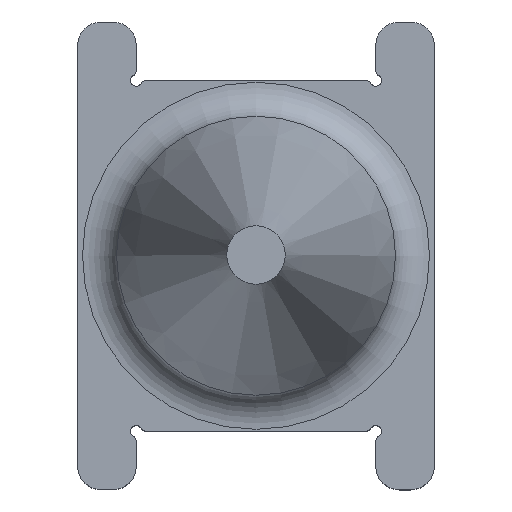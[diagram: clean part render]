
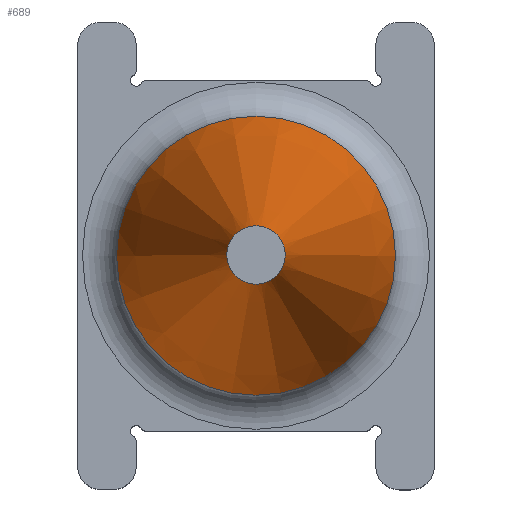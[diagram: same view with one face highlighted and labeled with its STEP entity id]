
A CAD part, top view. The second image highlights one B-rep face of the part: STEP entity #689.
In plain terms, the highlighted conical face has half-angle 14.036 degrees and reference radius 12.5 mm.
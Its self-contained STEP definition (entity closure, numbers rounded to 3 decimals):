
#15=CONICAL_SURFACE('',#783,12.5,0.245);
#66=FACE_OUTER_BOUND('',#104,.T.);
#104=EDGE_LOOP('',(#623,#624,#625,#626));
#164=LINE('',#1211,#221);
#221=VECTOR('',#1002,12.5);
#263=CIRCLE('',#781,11.932);
#265=CIRCLE('',#784,2.5);
#331=VERTEX_POINT('',#1205);
#332=VERTEX_POINT('',#1209);
#430=EDGE_CURVE('',#331,#331,#263,.T.);
#432=EDGE_CURVE('',#332,#332,#265,.T.);
#433=EDGE_CURVE('',#332,#331,#164,.T.);
#623=ORIENTED_EDGE('',*,*,#432,.T.);
#624=ORIENTED_EDGE('',*,*,#433,.T.);
#625=ORIENTED_EDGE('',*,*,#430,.F.);
#626=ORIENTED_EDGE('',*,*,#433,.F.);
#689=ADVANCED_FACE('',(#66),#15,.T.);
#781=AXIS2_PLACEMENT_3D('',#1206,#994,#995);
#783=AXIS2_PLACEMENT_3D('',#1208,#998,#999);
#784=AXIS2_PLACEMENT_3D('',#1210,#1000,#1001);
#994=DIRECTION('center_axis',(0.,0.,
-1.));
#995=DIRECTION('ref_axis',(1.,0.,0.));
#998=DIRECTION('center_axis',(0.,0.,-1.));
#999=DIRECTION('ref_axis',(-1.,0.,0.));
#1000=DIRECTION('center_axis',(0.,0.,-1.));
#1001=DIRECTION('ref_axis',(1.,0.,0.));
#1002=DIRECTION('',(0.243,0.,-0.97));
#1205=CARTESIAN_POINT('',(11.932,0.,22.272));
#1206=CARTESIAN_POINT('Origin',(0.,0.,22.272));
#1208=CARTESIAN_POINT('Origin',(0.,0.,20.));
#1209=CARTESIAN_POINT('',(2.5,0.,60.));
#1210=CARTESIAN_POINT('Origin',(0.,0.,60.));
#1211=CARTESIAN_POINT('',(12.5,0.,20.));
